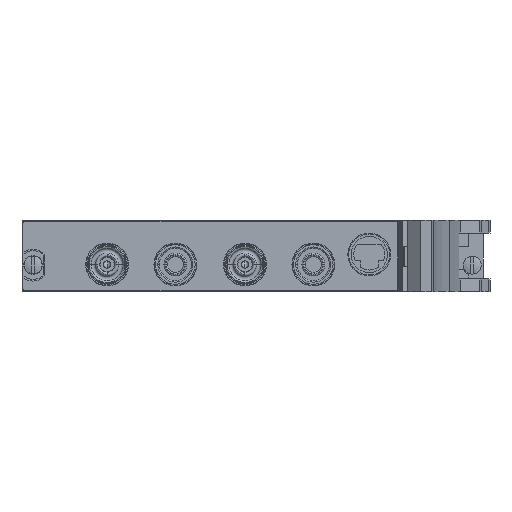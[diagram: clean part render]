
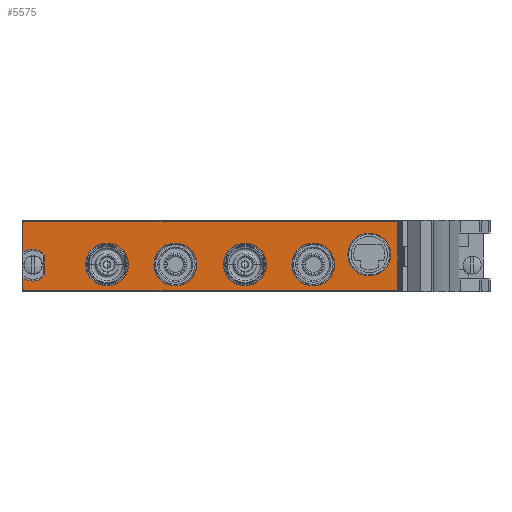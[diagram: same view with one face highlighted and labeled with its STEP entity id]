
A CAD part, left-side view. The second image highlights one B-rep face of the part: STEP entity #5575.
In plain terms, the highlighted planar face has unit normal (-1, 0, 0).
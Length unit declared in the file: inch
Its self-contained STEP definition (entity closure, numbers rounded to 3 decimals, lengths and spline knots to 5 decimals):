
#949=CARTESIAN_POINT('',(-0.215,0.53457,0.6653));
#950=DIRECTION('',(-1.,0.,0.));
#951=DIRECTION('',(0.,0.,1.));
#952=AXIS2_PLACEMENT_3D('',#949,#950,#951);
#954=DIRECTION('',(0.,1.,0.));
#955=VECTOR('',#954,4.07);
#956=CARTESIAN_POINT('',(-0.215,-3.53543,0.6853));
#957=LINE('',#956,#955);
#958=CARTESIAN_POINT('',(-0.215,-3.53543,0.6653));
#959=DIRECTION('',(-1.,0.,0.));
#960=DIRECTION('',(0.,-1.,0.));
#961=AXIS2_PLACEMENT_3D('',#958,#959,#960);
#963=DIRECTION('',(0.,0.,1.));
#964=VECTOR('',#963,0.728);
#965=CARTESIAN_POINT('',(-0.215,-3.55543,-0.0627));
#966=LINE('',#965,#964);
#967=CARTESIAN_POINT('',(-0.215,-3.53543,-0.0627));
#968=DIRECTION('',(-1.,0.,0.));
#969=DIRECTION('',(0.,0.,-1.));
#970=AXIS2_PLACEMENT_3D('',#967,#968,#969);
#972=DIRECTION('',(0.,-1.,0.));
#973=VECTOR('',#972,4.07);
#974=CARTESIAN_POINT('',(-0.215,0.53457,-0.0827));
#975=LINE('',#974,#973);
#976=CARTESIAN_POINT('',(-0.215,0.53457,-0.0627));
#977=DIRECTION('',(-1.,0.,0.));
#978=DIRECTION('',(0.,1.,0.));
#979=AXIS2_PLACEMENT_3D('',#976,#977,#978);
#981=DIRECTION('',(0.,0.,-1.));
#982=VECTOR('',#981,0.1263);
#983=CARTESIAN_POINT('',(-0.215,0.55457,0.0636));
#984=LINE('',#983,#982);
#985=CARTESIAN_POINT('',(-0.215,0.44657,0.2013));
#986=DIRECTION('',(1.,0.,0.));
#987=DIRECTION('',(0.,-0.76,-0.65));
#988=AXIS2_PLACEMENT_3D('',#985,#986,#987);
#990=DIRECTION('',(0.,0.,-1.));
#991=VECTOR('',#990,0.22747);
#992=CARTESIAN_POINT('',(-0.215,0.31357,0.31504));
#993=LINE('',#992,#991);
#994=CARTESIAN_POINT('',(-0.215,0.44657,0.2013));
#995=DIRECTION('',(1.,0.,0.));
#996=DIRECTION('',(0.,0.617,0.787));
#997=AXIS2_PLACEMENT_3D('',#994,#995,#996);
#999=DIRECTION('',(0.,0.,-1.));
#1000=VECTOR('',#999,0.3263);
#1001=CARTESIAN_POINT('',(-0.215,0.55457,0.6653));
#1002=LINE('',#1001,#1000);
#1003=CARTESIAN_POINT('',(-0.215,-3.24759,0.318));
#1004=DIRECTION('',(1.,0.,0.));
#1005=DIRECTION('',(0.,0.,-1.));
#1006=AXIS2_PLACEMENT_3D('',#1003,#1004,#1005);
#1008=CARTESIAN_POINT('',(-0.215,-3.24759,0.318));
#1009=DIRECTION('',(1.,0.,0.));
#1010=DIRECTION('',(0.,0.,1.));
#1011=AXIS2_PLACEMENT_3D('',#1008,#1009,#1010);
#1013=CARTESIAN_POINT('',(-0.215,-0.3695,0.20767));
#1014=DIRECTION('',(1.,0.,0.));
#1015=DIRECTION('',(0.,0.,-1.));
#1016=AXIS2_PLACEMENT_3D('',#1013,#1014,#1015);
#1018=CARTESIAN_POINT('',(-0.215,-0.3695,0.20767));
#1019=DIRECTION('',(1.,0.,0.));
#1020=DIRECTION('',(0.,0.,1.));
#1021=AXIS2_PLACEMENT_3D('',#1018,#1019,#1020);
#1023=CARTESIAN_POINT('',(-0.215,-1.1195,0.20767));
#1024=DIRECTION('',(1.,0.,0.));
#1025=DIRECTION('',(0.,0.,-1.));
#1026=AXIS2_PLACEMENT_3D('',#1023,#1024,#1025);
#1028=CARTESIAN_POINT('',(-0.215,-1.1195,0.20767));
#1029=DIRECTION('',(1.,0.,0.));
#1030=DIRECTION('',(0.,0.,1.));
#1031=AXIS2_PLACEMENT_3D('',#1028,#1029,#1030);
#1033=CARTESIAN_POINT('',(-0.215,-1.8835,0.20767));
#1034=DIRECTION('',(1.,0.,0.));
#1035=DIRECTION('',(0.,0.,-1.));
#1036=AXIS2_PLACEMENT_3D('',#1033,#1034,#1035);
#1038=CARTESIAN_POINT('',(-0.215,-1.8835,0.20767));
#1039=DIRECTION('',(1.,0.,0.));
#1040=DIRECTION('',(0.,0.,1.));
#1041=AXIS2_PLACEMENT_3D('',#1038,#1039,#1040);
#1043=CARTESIAN_POINT('',(-0.215,-2.6335,0.20767));
#1044=DIRECTION('',(1.,0.,0.));
#1045=DIRECTION('',(0.,0.,-1.));
#1046=AXIS2_PLACEMENT_3D('',#1043,#1044,#1045);
#1048=CARTESIAN_POINT('',(-0.215,-2.6335,0.20767));
#1049=DIRECTION('',(1.,0.,0.));
#1050=DIRECTION('',(0.,0.,1.));
#1051=AXIS2_PLACEMENT_3D('',#1048,#1049,#1050);
#4260=CARTESIAN_POINT('',(-0.215,0.53457,0.6853));
#4261=CARTESIAN_POINT('',(-0.215,0.55457,0.6653));
#4262=VERTEX_POINT('',#4260);
#4263=VERTEX_POINT('',#4261);
#4264=CARTESIAN_POINT('',(-0.215,0.55457,0.339));
#4265=VERTEX_POINT('',#4264);
#4266=CARTESIAN_POINT('',(-0.215,0.31357,0.31504));
#4267=VERTEX_POINT('',#4266);
#4268=CARTESIAN_POINT('',(-0.215,0.31357,0.08756));
#4269=VERTEX_POINT('',#4268);
#4270=CARTESIAN_POINT('',(-0.215,0.55457,0.0636));
#4271=VERTEX_POINT('',#4270);
#4272=CARTESIAN_POINT('',(-0.215,0.55457,-0.0627));
#4273=VERTEX_POINT('',#4272);
#4274=CARTESIAN_POINT('',(-0.215,0.53457,-0.0827));
#4275=VERTEX_POINT('',#4274);
#4276=CARTESIAN_POINT('',(-0.215,-3.53543,-0.0827));
#4277=VERTEX_POINT('',#4276);
#4278=CARTESIAN_POINT('',(-0.215,-3.55543,-0.0627));
#4279=VERTEX_POINT('',#4278);
#4280=CARTESIAN_POINT('',(-0.215,-3.55543,0.6653));
#4281=VERTEX_POINT('',#4280);
#4282=CARTESIAN_POINT('',(-0.215,-3.53543,0.6853));
#4283=VERTEX_POINT('',#4282);
#4284=CARTESIAN_POINT('',(-0.215,-3.24759,0.083));
#4285=CARTESIAN_POINT('',(-0.215,-3.24759,0.553));
#4286=VERTEX_POINT('',#4284);
#4287=VERTEX_POINT('',#4285);
#4288=CARTESIAN_POINT('',(-0.215,-0.3695,-0.02733));
#4289=CARTESIAN_POINT('',(-0.215,-0.3695,0.44267));
#4290=VERTEX_POINT('',#4288);
#4291=VERTEX_POINT('',#4289);
#4292=CARTESIAN_POINT('',(-0.215,-1.1195,-0.02733));
#4293=CARTESIAN_POINT('',(-0.215,-1.1195,0.44267));
#4294=VERTEX_POINT('',#4292);
#4295=VERTEX_POINT('',#4293);
#4296=CARTESIAN_POINT('',(-0.215,-1.8835,-0.02733));
#4297=CARTESIAN_POINT('',(-0.215,-1.8835,0.44267));
#4298=VERTEX_POINT('',#4296);
#4299=VERTEX_POINT('',#4297);
#4300=CARTESIAN_POINT('',(-0.215,-2.6335,-0.02733));
#4301=CARTESIAN_POINT('',(-0.215,-2.6335,0.44267));
#4302=VERTEX_POINT('',#4300);
#4303=VERTEX_POINT('',#4301);
#5517=CARTESIAN_POINT('',(-0.215,0.44657,0.2013));
#5518=DIRECTION('',(-1.,0.,0.));
#5519=DIRECTION('',(0.,0.,1.));
#5520=AXIS2_PLACEMENT_3D('',#5517,#5518,#5519);
#5521=PLANE('',#5520);
#5522=ORIENTED_EDGE('',*,*,#4536,.F.);
#5524=ORIENTED_EDGE('',*,*,#5523,.F.);
#5526=ORIENTED_EDGE('',*,*,#5525,.F.);
#5528=ORIENTED_EDGE('',*,*,#5527,.F.);
#5530=ORIENTED_EDGE('',*,*,#5529,.F.);
#5532=ORIENTED_EDGE('',*,*,#5531,.F.);
#5534=ORIENTED_EDGE('',*,*,#5533,.F.);
#5536=ORIENTED_EDGE('',*,*,#5535,.F.);
#5538=ORIENTED_EDGE('',*,*,#5537,.F.);
#5540=ORIENTED_EDGE('',*,*,#5539,.F.);
#5542=ORIENTED_EDGE('',*,*,#5541,.F.);
#5544=ORIENTED_EDGE('',*,*,#5543,.F.);
#5545=EDGE_LOOP('',(#5522,#5524,#5526,#5528,#5530,#5532,#5534,#5536,#5538,#5540,
#5542,#5544));
#5546=FACE_OUTER_BOUND('',#5545,.F.);
#5547=ORIENTED_EDGE('',*,*,#5497,.F.);
#5548=ORIENTED_EDGE('',*,*,#5511,.F.);
#5549=EDGE_LOOP('',(#5547,#5548));
#5550=FACE_BOUND('',#5549,.F.);
#5552=ORIENTED_EDGE('',*,*,#5551,.F.);
#5554=ORIENTED_EDGE('',*,*,#5553,.F.);
#5555=EDGE_LOOP('',(#5552,#5554));
#5556=FACE_BOUND('',#5555,.F.);
#5558=ORIENTED_EDGE('',*,*,#5557,.F.);
#5560=ORIENTED_EDGE('',*,*,#5559,.F.);
#5561=EDGE_LOOP('',(#5558,#5560));
#5562=FACE_BOUND('',#5561,.F.);
#5564=ORIENTED_EDGE('',*,*,#5563,.F.);
#5566=ORIENTED_EDGE('',*,*,#5565,.F.);
#5567=EDGE_LOOP('',(#5564,#5566));
#5568=FACE_BOUND('',#5567,.F.);
#5570=ORIENTED_EDGE('',*,*,#5569,.F.);
#5572=ORIENTED_EDGE('',*,*,#5571,.F.);
#5573=EDGE_LOOP('',(#5570,#5572));
#5574=FACE_BOUND('',#5573,.F.);
#5575=ADVANCED_FACE('',(#5546,#5550,#5556,#5562,#5568,#5574),#5521,.T.);
#953=CIRCLE('',#952,0.02);
#962=CIRCLE('',#961,0.02);
#971=CIRCLE('',#970,0.02);
#980=CIRCLE('',#979,0.02);
#989=CIRCLE('',#988,0.175);
#998=CIRCLE('',#997,0.175);
#1007=CIRCLE('',#1006,0.235);
#1012=CIRCLE('',#1011,0.235);
#1017=CIRCLE('',#1016,0.235);
#1022=CIRCLE('',#1021,0.235);
#1027=CIRCLE('',#1026,0.235);
#1032=CIRCLE('',#1031,0.235);
#1037=CIRCLE('',#1036,0.235);
#1042=CIRCLE('',#1041,0.235);
#1047=CIRCLE('',#1046,0.235);
#1052=CIRCLE('',#1051,0.235);
#4536=EDGE_CURVE('',#4262,#4263,#953,.T.);
#5497=EDGE_CURVE('',#4286,#4287,#1007,.T.);
#5511=EDGE_CURVE('',#4287,#4286,#1012,.T.);
#5523=EDGE_CURVE('',#4283,#4262,#957,.T.);
#5525=EDGE_CURVE('',#4281,#4283,#962,.T.);
#5527=EDGE_CURVE('',#4279,#4281,#966,.T.);
#5529=EDGE_CURVE('',#4277,#4279,#971,.T.);
#5531=EDGE_CURVE('',#4275,#4277,#975,.T.);
#5533=EDGE_CURVE('',#4273,#4275,#980,.T.);
#5535=EDGE_CURVE('',#4271,#4273,#984,.T.);
#5537=EDGE_CURVE('',#4269,#4271,#989,.T.);
#5539=EDGE_CURVE('',#4267,#4269,#993,.T.);
#5541=EDGE_CURVE('',#4265,#4267,#998,.T.);
#5543=EDGE_CURVE('',#4263,#4265,#1002,.T.);
#5551=EDGE_CURVE('',#4290,#4291,#1017,.T.);
#5553=EDGE_CURVE('',#4291,#4290,#1022,.T.);
#5557=EDGE_CURVE('',#4294,#4295,#1027,.T.);
#5559=EDGE_CURVE('',#4295,#4294,#1032,.T.);
#5563=EDGE_CURVE('',#4298,#4299,#1037,.T.);
#5565=EDGE_CURVE('',#4299,#4298,#1042,.T.);
#5569=EDGE_CURVE('',#4302,#4303,#1047,.T.);
#5571=EDGE_CURVE('',#4303,#4302,#1052,.T.);
